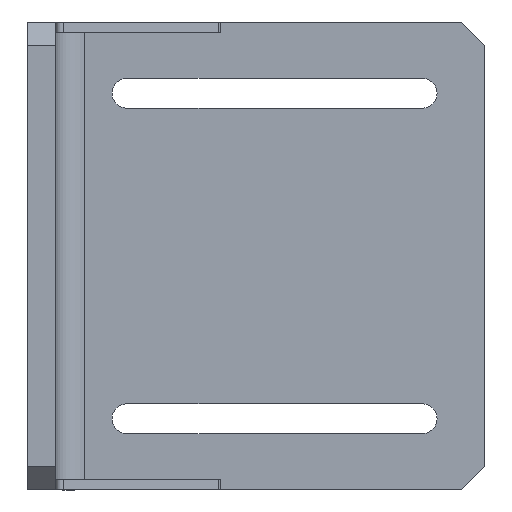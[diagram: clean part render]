
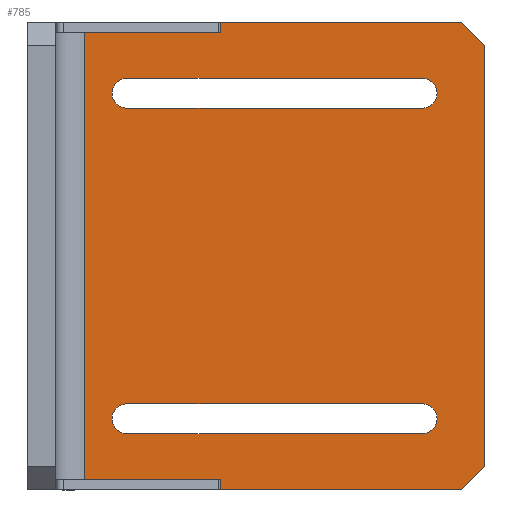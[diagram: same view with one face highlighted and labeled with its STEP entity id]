
A CAD part, left-side view. The second image highlights one B-rep face of the part: STEP entity #785.
In plain terms, the highlighted planar face has unit normal (-1, 0, 0).
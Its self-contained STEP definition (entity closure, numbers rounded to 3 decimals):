
#20=FACE_BOUND('',#125,.T.);
#21=FACE_BOUND('',#126,.T.);
#38=CIRCLE('',#857,3.2);
#39=CIRCLE('',#858,3.2);
#40=CIRCLE('',#859,3.2);
#41=CIRCLE('',#860,3.2);
#80=FACE_OUTER_BOUND('',#124,.T.);
#124=EDGE_LOOP('',(#566,#567,#568,#569,#570,#571,#572,#573,#574,#575,#576,
#577,#578,#579));
#125=EDGE_LOOP('',(#580,#581,#582,#583));
#126=EDGE_LOOP('',(#584,#585,#586,#587));
#167=LINE('',#1141,#252);
#171=LINE('',#1153,#256);
#177=LINE('',#1168,#262);
#189=LINE('',#1203,#274);
#190=LINE('',#1205,#275);
#191=LINE('',#1207,#276);
#192=LINE('',#1209,#277);
#193=LINE('',#1211,#278);
#194=LINE('',#1213,#279);
#195=LINE('',#1215,#280);
#196=LINE('',#1217,#281);
#197=LINE('',#1219,#282);
#198=LINE('',#1221,#283);
#199=LINE('',#1222,#284);
#200=LINE('',#1227,#285);
#201=LINE('',#1230,#286);
#202=LINE('',#1235,#287);
#203=LINE('',#1238,#288);
#252=VECTOR('',#915,10.);
#256=VECTOR('',#925,10.);
#262=VECTOR('',#941,10.);
#274=VECTOR('',#967,10.);
#275=VECTOR('',#968,10.);
#276=VECTOR('',#969,10.);
#277=VECTOR('',#970,10.);
#278=VECTOR('',#971,10.);
#279=VECTOR('',#972,10.);
#280=VECTOR('',#973,10.);
#281=VECTOR('',#974,10.);
#282=VECTOR('',#975,10.);
#283=VECTOR('',#976,10.);
#284=VECTOR('',#977,10.);
#285=VECTOR('',#980,10.);
#286=VECTOR('',#983,10.);
#287=VECTOR('',#986,10.);
#288=VECTOR('',#989,10.);
#337=VERTEX_POINT('',#1138);
#338=VERTEX_POINT('',#1140);
#340=VERTEX_POINT('',#1146);
#343=VERTEX_POINT('',#1151);
#363=VERTEX_POINT('',#1202);
#364=VERTEX_POINT('',#1204);
#365=VERTEX_POINT('',#1206);
#366=VERTEX_POINT('',#1208);
#367=VERTEX_POINT('',#1210);
#368=VERTEX_POINT('',#1212);
#369=VERTEX_POINT('',#1214);
#370=VERTEX_POINT('',#1216);
#371=VERTEX_POINT('',#1218);
#372=VERTEX_POINT('',#1220);
#373=VERTEX_POINT('',#1223);
#374=VERTEX_POINT('',#1224);
#375=VERTEX_POINT('',#1226);
#376=VERTEX_POINT('',#1228);
#377=VERTEX_POINT('',#1231);
#378=VERTEX_POINT('',#1232);
#379=VERTEX_POINT('',#1234);
#380=VERTEX_POINT('',#1236);
#411=EDGE_CURVE('',#338,#337,#167,.T.);
#417=EDGE_CURVE('',#343,#340,#171,.T.);
#425=EDGE_CURVE('',#343,#338,#177,.T.);
#442=EDGE_CURVE('',#337,#363,#189,.T.);
#443=EDGE_CURVE('',#363,#364,#190,.T.);
#444=EDGE_CURVE('',#364,#365,#191,.T.);
#445=EDGE_CURVE('',#365,#366,#192,.T.);
#446=EDGE_CURVE('',#366,#367,#193,.T.);
#447=EDGE_CURVE('',#368,#367,#194,.T.);
#448=EDGE_CURVE('',#368,#369,#195,.T.);
#449=EDGE_CURVE('',#369,#370,#196,.T.);
#450=EDGE_CURVE('',#370,#371,#197,.T.);
#451=EDGE_CURVE('',#371,#372,#198,.T.);
#452=EDGE_CURVE('',#372,#340,#199,.T.);
#453=EDGE_CURVE('',#373,#374,#38,.T.);
#454=EDGE_CURVE('',#374,#375,#200,.T.);
#455=EDGE_CURVE('',#375,#376,#39,.T.);
#456=EDGE_CURVE('',#376,#373,#201,.T.);
#457=EDGE_CURVE('',#377,#378,#40,.T.);
#458=EDGE_CURVE('',#378,#379,#202,.T.);
#459=EDGE_CURVE('',#379,#380,#41,.T.);
#460=EDGE_CURVE('',#380,#377,#203,.T.);
#566=ORIENTED_EDGE('',*,*,#417,.F.);
#567=ORIENTED_EDGE('',*,*,#425,.T.);
#568=ORIENTED_EDGE('',*,*,#411,.T.);
#569=ORIENTED_EDGE('',*,*,#442,.T.);
#570=ORIENTED_EDGE('',*,*,#443,.T.);
#571=ORIENTED_EDGE('',*,*,#444,.T.);
#572=ORIENTED_EDGE('',*,*,#445,.T.);
#573=ORIENTED_EDGE('',*,*,#446,.T.);
#574=ORIENTED_EDGE('',*,*,#447,.F.);
#575=ORIENTED_EDGE('',*,*,#448,.T.);
#576=ORIENTED_EDGE('',*,*,#449,.T.);
#577=ORIENTED_EDGE('',*,*,#450,.T.);
#578=ORIENTED_EDGE('',*,*,#451,.T.);
#579=ORIENTED_EDGE('',*,*,#452,.T.);
#580=ORIENTED_EDGE('',*,*,#453,.T.);
#581=ORIENTED_EDGE('',*,*,#454,.T.);
#582=ORIENTED_EDGE('',*,*,#455,.T.);
#583=ORIENTED_EDGE('',*,*,#456,.T.);
#584=ORIENTED_EDGE('',*,*,#457,.T.);
#585=ORIENTED_EDGE('',*,*,#458,.T.);
#586=ORIENTED_EDGE('',*,*,#459,.T.);
#587=ORIENTED_EDGE('',*,*,#460,.T.);
#759=PLANE('',#856);
#785=ADVANCED_FACE('',(#80,#20,#21),#759,.F.);
#856=AXIS2_PLACEMENT_3D('',#1201,#965,#966);
#857=AXIS2_PLACEMENT_3D('',#1225,#978,#979);
#858=AXIS2_PLACEMENT_3D('',#1229,#981,#982);
#859=AXIS2_PLACEMENT_3D('',#1233,#984,#985);
#860=AXIS2_PLACEMENT_3D('',#1237,#987,#988);
#915=DIRECTION('',(0.,0.,1.));
#925=DIRECTION('',(0.,0.,1.));
#941=DIRECTION('',(0.,1.,0.));
#965=DIRECTION('center_axis',(1.,0.,0.));
#966=DIRECTION('ref_axis',(0.,0.,1.));
#967=DIRECTION('',(0.,1.,0.));
#968=DIRECTION('',(0.,0.,-1.));
#969=DIRECTION('',(0.,-1.,0.));
#970=DIRECTION('',(0.,0.,1.));
#971=DIRECTION('',(0.,-1.,0.));
#972=DIRECTION('',(0.,0.,1.));
#973=DIRECTION('',(0.,-1.,0.));
#974=DIRECTION('',(0.,-0.707,0.707));
#975=DIRECTION('',(0.,0.,1.));
#976=DIRECTION('',(0.,0.707,0.707));
#977=DIRECTION('',(0.,1.,0.));
#978=DIRECTION('center_axis',(1.,0.,0.));
#979=DIRECTION('ref_axis',(0.,0.,1.));
#980=DIRECTION('',(0.,1.,0.));
#981=DIRECTION('center_axis',(1.,0.,0.));
#982=DIRECTION('ref_axis',(0.,0.,
-1.));
#983=DIRECTION('',(0.,-1.,0.));
#984=DIRECTION('center_axis',(1.,0.,0.));
#985=DIRECTION('ref_axis',(0.,0.,1.));
#986=DIRECTION('',(0.,-1.,0.));
#987=DIRECTION('center_axis',(1.,0.,0.));
#988=DIRECTION('ref_axis',(0.,0.,
-1.));
#989=DIRECTION('',(0.,1.,0.));
#1138=CARTESIAN_POINT('',(-0.512,-7.2,50.4));
#1140=CARTESIAN_POINT('',(-0.512,-7.2,48.1));
#1141=CARTESIAN_POINT('',(-0.512,-7.2,25.2));
#1146=CARTESIAN_POINT('',(-0.512,-34.4,50.4));
#1151=CARTESIAN_POINT('',(-0.512,-34.4,48.1));
#1153=CARTESIAN_POINT('',(-0.512,-34.4,50.4));
#1168=CARTESIAN_POINT('',(-0.512,-8.294,48.1));
#1201=CARTESIAN_POINT('Origin',(-0.512,1.112,0.));
#1202=CARTESIAN_POINT('',(-0.512,-6.2,50.4));
#1203=CARTESIAN_POINT('',(-0.512,-87.401,50.4));
#1204=CARTESIAN_POINT('',(-0.512,-6.2,-50.4));
#1205=CARTESIAN_POINT('',(-0.512,-6.2,-25.2));
#1206=CARTESIAN_POINT('',(-0.512,-7.2,-50.4));
#1207=CARTESIAN_POINT('',(-0.512,89.625,-50.4));
#1208=CARTESIAN_POINT('',(-0.512,-7.2,-48.1));
#1209=CARTESIAN_POINT('',(-0.512,-7.2,-25.2));
#1210=CARTESIAN_POINT('',(-0.512,-34.4,-48.1));
#1211=CARTESIAN_POINT('',(-0.512,-8.294,-48.1));
#1212=CARTESIAN_POINT('',(-0.512,-34.4,-50.4));
#1213=CARTESIAN_POINT('',(-0.512,-34.4,-50.4));
#1214=CARTESIAN_POINT('',(-0.512,-87.401,-50.4));
#1215=CARTESIAN_POINT('',(-0.512,89.625,-50.4));
#1216=CARTESIAN_POINT('',(-0.512,-92.401,-45.4));
#1217=CARTESIAN_POINT('',(-0.512,-87.401,-50.4));
#1218=CARTESIAN_POINT('',(-0.512,-92.401,45.4));
#1219=CARTESIAN_POINT('',(-0.512,-92.401,-45.4));
#1220=CARTESIAN_POINT('',(-0.512,-87.401,50.4));
#1221=CARTESIAN_POINT('',(-0.512,-92.401,45.4));
#1222=CARTESIAN_POINT('',(-0.512,-87.401,50.4));
#1223=CARTESIAN_POINT('',(-0.512,-78.901,-31.85));
#1224=CARTESIAN_POINT('',(-0.512,-78.901,-38.25));
#1225=CARTESIAN_POINT('Origin',(-0.512,-78.901,-35.05));
#1226=CARTESIAN_POINT('',(-0.512,-15.301,-38.25));
#1227=CARTESIAN_POINT('',(-0.512,-7.094,-38.25));
#1228=CARTESIAN_POINT('',(-0.512,-15.301,-31.85));
#1229=CARTESIAN_POINT('Origin',(-0.512,-15.301,-35.05));
#1230=CARTESIAN_POINT('',(-0.512,-38.894,-31.85));
#1231=CARTESIAN_POINT('',(-0.512,-15.301,31.85));
#1232=CARTESIAN_POINT('',(-0.512,-15.301,38.25));
#1233=CARTESIAN_POINT('Origin',(-0.512,-15.301,35.05));
#1234=CARTESIAN_POINT('',(-0.512,-78.901,38.25));
#1235=CARTESIAN_POINT('',(-0.512,-38.894,38.25));
#1236=CARTESIAN_POINT('',(-0.512,-78.901,31.85));
#1237=CARTESIAN_POINT('Origin',(-0.512,-78.901,35.05));
#1238=CARTESIAN_POINT('',(-0.512,-7.094,31.85));
